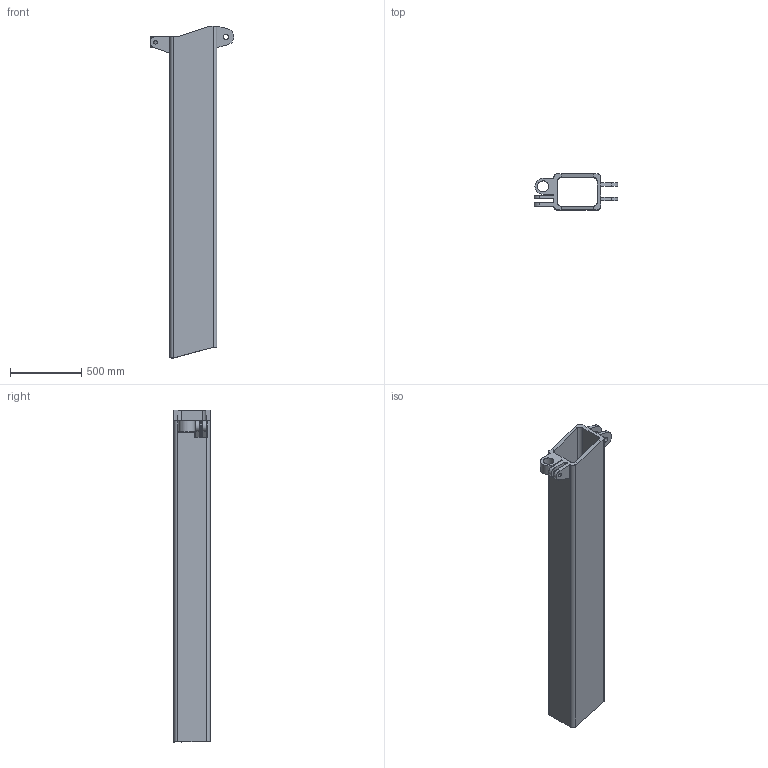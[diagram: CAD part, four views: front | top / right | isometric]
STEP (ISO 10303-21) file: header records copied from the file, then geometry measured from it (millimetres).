
FILE_DESCRIPTION(/* description */ ('PART DESCRIPTION (LINE 1)'),/* implementation_level */ '2;1');
FILE_NAME(/* name */ 'Link4.stp',/* time_stamp */ '2024-04-03T10:48:18+02:00',/* author */ ('JL'),/* organization */ (''),/* preprocessor_version */ 'ST-DEVELOPER v19.2',/* originating_system */ 'Autodesk Inventor 2023',/* authorisation */ '');
FILE_SCHEMA (('AUTOMOTIVE_DESIGN { 1 0 10303 214 3 1 1 }'));
Length unit declared in the file: inch
Products named in the file (1): Link4
Bounding box: 590.43 x 254 x 2336.8 mm (x, y, z)
Volume: 63195426.4 mm3; surface area: 4858974.1 mm2
Topology: 1 solids, 1 shells, 60 faces, 160 edges, 100 vertices
Faces by surface type: plane 33, cylinder 26, bspline 1
Full cylindrical faces by diameter (mm): 25.4 x2, 38.1 x2, 76.2 x1
Entity records: 1944 total; most frequent: CARTESIAN_POINT 342, DIRECTION 334, ORIENTED_EDGE 320, EDGE_CURVE 160, AXIS2_PLACEMENT_3D 114, LINE 106, VECTOR 106, VERTEX_POINT 100
